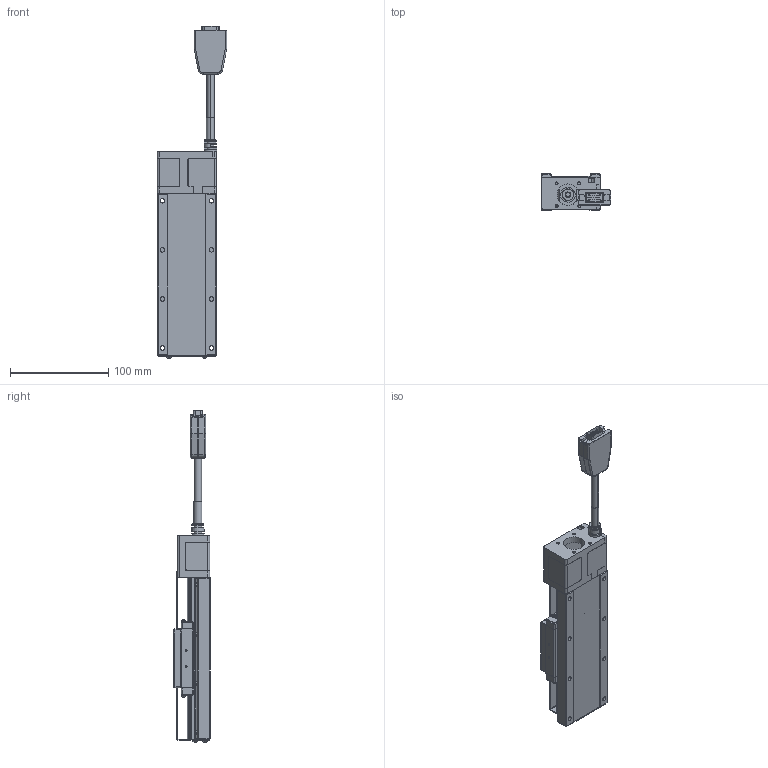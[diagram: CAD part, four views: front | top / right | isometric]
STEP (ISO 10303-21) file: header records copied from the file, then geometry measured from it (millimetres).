
FILE_DESCRIPTION (( 'STEP AP203' ), '1' );
FILE_NAME ('CXC6075-S2?N(µL°¨¹F).S', '2024-01-05T03:44:54', ( '' ), ( '' ), 'SwSTEP 2.0', 'SolidWorks 2019', '' );
FILE_SCHEMA (( 'CONFIG_CONTROL_DESIGN' ));
Length unit declared in the file: millimetre
Products named in the file (8): CXC6075-S2OPAN-303_30; Group1^CXC6075-S2?N(28框無馬達)_defeature_GMT; CXC6075-S2?N(無馬達); Group2^CXC6075-S2?N(28框無馬達)_defeature_GMT; SD03B006_SD03B006-SCM435(化鎳); SC04B006_SCM435(化鎳); SG02B005_SCM435(化鎳); CXC60-102-10
Assembly tree (15 placements, depth 2):
  CXC6075-S2?N(無馬達)
    Group1^CXC6075-S2?N(28框無馬達)_defeature_GMT
    Group2^CXC6075-S2?N(28框無馬達)_defeature_GMT
    CXC6075-S2OPAN-303_30
    SC04B006_SCM435(化鎳)  x4
    CXC60-102-10  x2
    SD03B006_SD03B006-SCM435(化鎳)  x4
    SG02B005_SCM435(化鎳)  x2
Bounding box: 70.5 x 37 x 338.25 mm (x, y, z)
Volume: 51827.3 mm3; surface area: 123792 mm2
Topology: 36 solids, 39 shells, 4229 faces, 10603 edges, 6417 vertices
Faces by surface type: plane 1530, cylinder 1336, cone 563, torus 328, bspline 272, sphere 200
Entity records: 129666 total; most frequent: CARTESIAN_POINT 34425, DIRECTION 20476, ORIENTED_EDGE 19524, EDGE_CURVE 9762, AXIS2_PLACEMENT_3D 7833, VERTEX_POINT 5994, VECTOR 4810, LINE 4810
